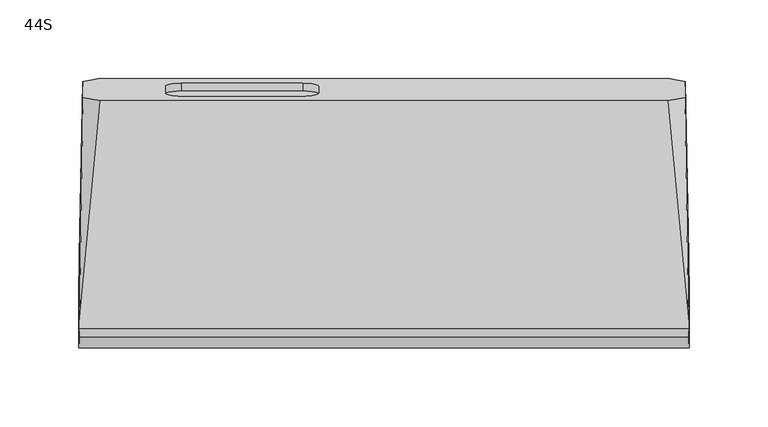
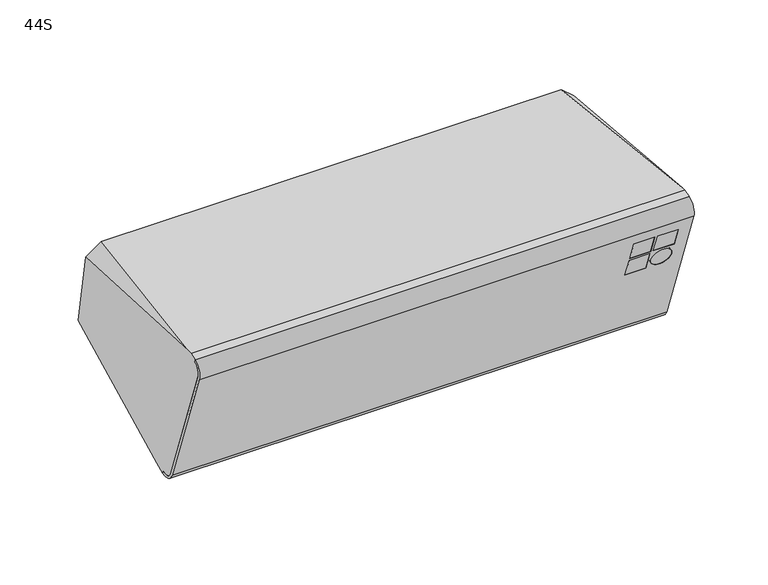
"""IFC4 building model written with IfcOpenShell, lengths in millimetres: proxy geometry, d&b xS-Series 44S Point Source : 44S."""

import ifcopenshell
import ifcopenshell.guid

model = None  # the IFC model being written
_history = None  # IfcOwnerHistory: only IFC2X3 demands one
_inside = {}  # id of a spatial element -> (the spatial element, [elements in it])
_under = {}  # id of a project, library or spatial element -> (it, [spatial elements below it])
_declared = {}  # id of a project -> (the project, [libraries it declares])
_typed = {}  # id of a type object -> (the type object, [elements of that type])
_made_of = {}  # id of a material, layer set ... -> (it, [elements and type objects made of it])


def new_model(schema):
    """Start an empty IFC model of exactly this schema.

    Asked for "IFC4X3", IfcOpenShell would pick the latest addendum, in which some entities
    have other attributes; the version numbers below select the first issue.
    IFC2X3 requires an IfcOwnerHistory on every rooted entity: one is made here for all.
    """
    global model, _history
    if schema == "IFC4X3":
        model = ifcopenshell.file(schema_version=(4, 3, 0, 0))
    else:
        model = ifcopenshell.file(schema=schema)
    _inside.clear()
    _under.clear()
    _declared.clear()
    _typed.clear()
    _made_of.clear()
    _history = None
    if model.schema == "IFC2X3":
        org = make("IfcOrganization", Name="unknown")
        user = make(
            "IfcPersonAndOrganization",
            ThePerson=make("IfcPerson", FamilyName="unknown"),
            TheOrganization=org,
        )
        app = make(
            "IfcApplication",
            ApplicationDeveloper=org,
            Version="unknown",
            ApplicationFullName="unknown",
            ApplicationIdentifier="unknown",
        )
        _history = make(
            "IfcOwnerHistory",
            OwningUser=user,
            OwningApplication=app,
            ChangeAction="ADDED",
            CreationDate=0,
        )
    return model


def make(cls, **values):
    """One entity of the class cls with the attributes given. An attribute that is None is left unset."""
    return model.create_entity(
        cls, **{name: value for name, value in values.items() if value is not None}
    )


def rooted(cls, **values):
    """An entity with a GlobalId (a new one), such as an element, a storey or a relation."""
    return make(cls, GlobalId=ifcopenshell.guid.new(), OwnerHistory=_history, **values)


def si_unit(unit_type, name, prefix=None):
    """IfcSIUnit, for example si_unit("LENGTHUNIT", "METRE", prefix="MILLI")."""
    return make("IfcSIUnit", UnitType=unit_type, Prefix=prefix, Name=name)


def assignment(units):
    """IfcUnitAssignment: the units of a project."""
    return None if units is None else make("IfcUnitAssignment", Units=units)


def point(xyz):
    """IfcCartesianPoint."""
    return None if xyz is None else make("IfcCartesianPoint", Coordinates=xyz)


def direction(xyz):
    """IfcDirection."""
    return None if xyz is None else make("IfcDirection", DirectionRatios=xyz)


def frame(location, z_axis=None, x_axis=None):
    """IfcAxis2Placement3D, a coordinate frame: its origin and axes. An axis left out is left unset."""
    return make(
        "IfcAxis2Placement3D",
        Location=point(location),
        Axis=direction(z_axis),
        RefDirection=direction(x_axis),
    )


def frame_2d(location, x_axis=None):
    """IfcAxis2Placement2D, a coordinate frame in the plane: its origin and x axis."""
    return make(
        "IfcAxis2Placement2D", Location=point(location), RefDirection=direction(x_axis)
    )


def origin():
    """The frame at (0, 0, 0) with its axes left unset."""
    return frame((0.0, 0.0, 0.0))


def place(relative_to, where):
    """IfcLocalPlacement: puts the frame where relative to a parent placement (None: the world)."""
    return make(
        "IfcLocalPlacement", PlacementRelTo=relative_to, RelativePlacement=where
    )


def context(
    kind, dimensions, precision=None, world=None, true_north=None, identifier=None
):
    """IfcGeometricRepresentationContext, for example the 3D "Model" context."""
    return make(
        "IfcGeometricRepresentationContext",
        ContextIdentifier=identifier,
        ContextType=kind,
        CoordinateSpaceDimension=dimensions,
        Precision=precision,
        WorldCoordinateSystem=world,
        TrueNorth=true_north,
    )


def project(units=None, contexts=None):
    """IfcProject with its units and contexts."""
    return rooted(
        "IfcProject",
        Name="project",
        RepresentationContexts=contexts,
        UnitsInContext=assignment(units),
    )


def spatial(cls, under=None, at=None, **own):
    """A site, building, storey or space (cls), placed at a placement, below another one or the project."""
    s = rooted(cls, ObjectPlacement=at, **own)
    if under is not None:
        _under.setdefault(under.id(), (under, []))[1].append(s)
    return s


def polyline(points):
    """IfcPolyline through the points."""
    return make("IfcPolyline", Points=[point(p) for p in points])


def circle_curve(where, radius):
    """IfcCircle in the frame where."""
    return make("IfcCircle", Position=where, Radius=radius)


def ellipse_curve(where, semi_axis1, semi_axis2):
    """IfcEllipse in the frame where."""
    return make(
        "IfcEllipse", Position=where, SemiAxis1=semi_axis1, SemiAxis2=semi_axis2
    )


def trimmed(basis, trim1, trim2, sense, master):
    """IfcTrimmedCurve: the piece of a basis curve between two trims."""
    return make(
        "IfcTrimmedCurve",
        BasisCurve=basis,
        Trim1=trim1,
        Trim2=trim2,
        SenseAgreement=sense,
        MasterRepresentation=master,
    )


def segment(curve, same_sense, transition):
    """IfcCompositeCurveSegment."""
    return make(
        "IfcCompositeCurveSegment",
        Transition=transition,
        SameSense=same_sense,
        ParentCurve=curve,
    )


def composite_curve(segments, self_intersect=None):
    """IfcCompositeCurve: segments joined end to end."""
    return make("IfcCompositeCurve", Segments=segments, SelfIntersect=self_intersect)


def outline(outer, holes=None, kind="AREA"):
    """IfcArbitraryClosedProfileDef: a profile drawn as a closed curve; with holes, ...WithVoids."""
    if holes is None:
        return make("IfcArbitraryClosedProfileDef", ProfileType=kind, OuterCurve=outer)
    return make(
        "IfcArbitraryProfileDefWithVoids",
        ProfileType=kind,
        OuterCurve=outer,
        InnerCurves=holes,
    )


def extrude(swept, where, along, depth):
    """IfcExtrudedAreaSolid: the profile swept, set in the frame where, extruded along a direction by depth."""
    return make(
        "IfcExtrudedAreaSolid",
        SweptArea=swept,
        Position=where,
        ExtrudedDirection=direction(along),
        Depth=depth,
    )


def shape(context_of_items, identifier, shape_type, items):
    """IfcShapeRepresentation: the items that make up one representation, for example the "Body"."""
    return make(
        "IfcShapeRepresentation",
        ContextOfItems=context_of_items,
        RepresentationIdentifier=identifier,
        RepresentationType=shape_type,
        Items=items,
    )


def source(mapping_origin, context_of_items, identifier, shape_type, items):
    """IfcRepresentationMap: a shape defined once, which mapped items show again and again."""
    return make(
        "IfcRepresentationMap",
        MappingOrigin=mapping_origin,
        MappedRepresentation=shape(context_of_items, identifier, shape_type, items),
    )


def transform(
    local_origin,
    x_axis=None,
    y_axis=None,
    z_axis=None,
    scale=None,
    scale2=None,
    scale3=None,
    uniform=True,
):
    """IfcCartesianTransformationOperator3D, or its non-uniform kind. x_axis, y_axis, z_axis: its Axis1, 2, 3."""
    if uniform:
        return make(
            "IfcCartesianTransformationOperator3D",
            Axis1=direction(x_axis),
            Axis2=direction(y_axis),
            LocalOrigin=point(local_origin),
            Scale=scale,
            Axis3=direction(z_axis),
        )
    return make(
        "IfcCartesianTransformationOperator3DnonUniform",
        Axis1=direction(x_axis),
        Axis2=direction(y_axis),
        LocalOrigin=point(local_origin),
        Scale=scale,
        Axis3=direction(z_axis),
        Scale2=scale2,
        Scale3=scale3,
    )


def mapped(mapping_source, mapping_target):
    """IfcMappedItem: shows the shape of a source again, moved by a transform."""
    return make(
        "IfcMappedItem", MappingSource=mapping_source, MappingTarget=mapping_target
    )


def made_of(thing, what):
    """Note that an element or type object is made of a material, layer set ...; save() writes the relation."""
    if what is not None:
        _made_of.setdefault(what.id(), (what, []))[1].append(thing)
    return thing


def element(
    cls,
    number,
    at=None,
    inside=None,
    cuts=None,
    type_object=None,
    material=None,
    context=None,
    identifier="Body",
    shape_type=None,
    held_by="IfcProductDefinitionShape",
    body=None,
    shapes=None,
    **own,
):
    """One element of the class cls, such as IfcWall. Its Tag is "e" and its number.

    at: its placement. inside: the storey or other place that contains it. cuts: it is an
    opening in that element (IfcRelVoidsElement). A single representation is given by context,
    identifier, shape_type and body (its items); several are given by shapes. held_by: the class
    of the entity that holds the representations. save() writes the other relations.
    """
    e = rooted(cls, Tag="e%d" % number, ObjectPlacement=at, **own)
    if body is not None:
        shapes = [shape(context, identifier, shape_type, body)]
    if shapes is not None:
        e.Representation = make(held_by, Representations=shapes)
    if inside is not None:
        _inside.setdefault(inside.id(), (inside, []))[1].append(e)
    if cuts is not None:
        rooted(
            "IfcRelVoidsElement", RelatingBuildingElement=cuts, RelatedOpeningElement=e
        )
    if type_object is not None:
        _typed.setdefault(type_object.id(), (type_object, []))[1].append(e)
    return made_of(e, material)


def aggregate(whole, parts):
    """IfcRelAggregates: a whole, such as a stair, and the parts it consists of."""
    return rooted("IfcRelAggregates", RelatingObject=whole, RelatedObjects=parts)


def save(model, path):
    """Write the relations noted so far, then the file.

    IfcRelAggregates (storeys below a building ...), IfcRelContainedInSpatialStructure (elements
    in a storey), IfcRelDefinesByType, IfcRelAssociatesMaterial and IfcRelDeclares: one each for
    every whole, place, type object, material and project.
    """
    for whole, parts in _under.values():
        aggregate(whole, parts)
    for where, things in _inside.values():
        rooted(
            "IfcRelContainedInSpatialStructure",
            RelatedElements=things,
            RelatingStructure=where,
        )
    for kind, things in _typed.values():
        rooted("IfcRelDefinesByType", RelatedObjects=things, RelatingType=kind)
    for what, things in _made_of.values():
        rooted("IfcRelAssociatesMaterial", RelatedObjects=things, RelatingMaterial=what)
    for by, libraries in _declared.values():
        rooted("IfcRelDeclares", RelatingContext=by, RelatedDefinitions=libraries)
    model.write(path)


def plane_surface(at):
    """IfcPlane: the flat surface through the origin of the frame at, square to its z axis."""
    return make("IfcPlane", Position=at)


def cylinder_surface(at, radius):
    """IfcCylindricalSurface: all points at the distance radius from the z axis of the frame at."""
    return make("IfcCylindricalSurface", Position=at, Radius=radius)


def revolved_surface(curve, axis_point, axis_direction):
    """IfcSurfaceOfRevolution: the curve turned about the line through axis_point along axis_direction."""
    return make(
        "IfcSurfaceOfRevolution",
        SweptCurve=make("IfcArbitraryOpenProfileDef", ProfileType="CURVE", Curve=curve),
        AxisPosition=make("IfcAxis1Placement", Location=point(axis_point), Axis=direction(axis_direction)),
    )


def advanced_brep(points, edges, surfaces, faces):
    """IfcAdvancedBrep: a solid bounded by faces that lie on surfaces and meet in shared edges.

    An edge is (start, end): straight between two places in points (the first is 0);
    or (start, end, curve); or (start, end, curve, False) where it runs against its curve.
    A face is (place in surfaces, loops), or (place, loops, False) where it looks against
    its surface's normal. A loop lists edges by number (the first is 1), with a minus sign
    where the edge is run from its end to its start. The first loop is the outer one.
    """
    corners = [point(p) for p in points]
    vertices = [make("IfcVertexPoint", VertexGeometry=c) for c in corners]
    made = []
    for start, end, *more in edges:
        made.append(
            make(
                "IfcEdgeCurve",
                EdgeStart=vertices[start],
                EdgeEnd=vertices[end],
                EdgeGeometry=more[0] if more else make("IfcPolyline", Points=[corners[start], corners[end]]),
                SameSense=more[1] if len(more) > 1 else True,
            )
        )
    hull = []
    for where, loops, *sense in faces:
        bounds = []
        for j, loop in enumerate(loops):
            ring = [make("IfcOrientedEdge", EdgeElement=made[abs(k) - 1], Orientation=k > 0) for k in loop]
            bounds.append(
                make(
                    "IfcFaceOuterBound" if j == 0 else "IfcFaceBound",
                    Bound=make("IfcEdgeLoop", EdgeList=ring),
                    Orientation=True,
                )
            )
        hull.append(make("IfcAdvancedFace", Bounds=bounds, FaceSurface=surfaces[where], SameSense=sense[0] if sense else True))
    return make("IfcAdvancedBrep", Outer=make("IfcClosedShell", CfsFaces=hull))


def proxy_44s_8543937a(model_context):
    return source(origin(), model_context, "Body", "SolidModel", [
        advanced_brep(
        [(-193.4294708, -87.9735419, 25.4458491), (-193.4294708, -51.0085421, -76.1146532), (-193.2924342, -40.7995779, -80.8751713), (-193.2924342, -40.1304238, -82.7136572), (-193.4644806, -52.9475514, -76.7369324), (-193.4644806, -89.8857269, 24.7498706), (-193.2918337, -83.8881405, 37.6117362), (-193.2918337, -83.1921621, 35.6995512), (193.4294708, -51.0085421, -76.1146532), (193.4294708, -87.9735419, 25.4458491), (193.2918337, -83.1921621, 35.6995512), (193.2918337, -83.8881405, 37.6117362), (193.4644806, -89.8857269, 24.7498706), (193.4644806, -52.9475514, -76.7369324), (193.2924342, -40.1304238, -82.7136572), (193.2924342, -40.7995779, -80.8751713), (164.7978139, -78.1689644, -1.4920061), (148.4644806, -78.1689644, -1.4920061), (148.4644806, -72.5826354, -16.8403189), (164.7978139, -72.5826354, -16.8403189), (164.7978139, -84.5533404, 16.0489229), (148.4644806, -84.5533404, 16.0489229), (148.4644806, -78.9670114, 0.7006101), (164.7978139, -78.9670114, 0.7006101), (183.4644806, -84.5533404, 16.0489229), (167.1311473, -84.5533404, 16.0489229), (167.1311473, -78.9670114, 0.7006101), (183.4644806, -78.9670114, 0.7006101), (167.1311473, -75.3757999, -9.1661625), (183.4644806, -75.3757999, -9.1661625), (148.4644806, -80.0811495, -2.1879845), (164.7978139, -80.0811495, -2.1879845), (164.7978139, -74.4948205, -17.5362973), (148.4644806, -74.4948205, -17.5362973), (148.4644806, -86.4655255, 15.3529444), (164.7978139, -86.4655255, 15.3529444), (164.7978139, -80.8791965, 0.0046316), (148.4644806, -80.8791965, 0.0046316), (167.1311473, -86.4655255, 15.3529444), (183.4644806, -86.4655255, 15.3529444), (183.4644806, -80.8791965, 0.0046316), (167.1311473, -80.8791965, 0.0046316), (183.4644806, -77.287985, -9.8621409), (167.1311473, -77.287985, -9.8621409)],
        [
            (0, 1),
            (1, 2, ellipse_curve(frame((-193.2924342, -43.5238009, -73.3904302), z_axis=(0.999852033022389, -0.016164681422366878, -0.005883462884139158), x_axis=(0.017202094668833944, 0.9395535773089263, 0.3419695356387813)), 7.9662739, 7.9650952)),
            (2, 3),
            (3, 4, ellipse_curve(frame((-193.2924342, -43.5506252, -73.316731), z_axis=(-0.999852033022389, 0.016164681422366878, 0.005883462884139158), x_axis=(-0.017202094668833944, -0.9395535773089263, -0.3419695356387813)), 10.0014799, 10.0)),
            (4, 5),
            (5, 6, ellipse_curve(frame((-193.2918337, -80.4560009, 28.1820102), z_axis=(-0.999852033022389, 0.016164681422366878, 0.005883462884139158), x_axis=(-0.017202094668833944, -0.9395535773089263, -0.3419695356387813)), 10.0363899, 10.0349048)),
            (6, 7),
            (7, 0, ellipse_curve(frame((-193.2918337, -80.4560009, 28.1820102), z_axis=(0.999852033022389, -0.016164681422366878, -0.005883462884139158), x_axis=(0.017202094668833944, 0.9395535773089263, 0.3419695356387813)), 8.0011839, 8.0)),
            (8, 9),
            (9, 10, ellipse_curve(frame((193.2918337, -80.4560009, 28.1820102), z_axis=(-0.9998520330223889, -0.016164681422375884, -0.005883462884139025), x_axis=(0.017202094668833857, -0.9395535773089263, -0.3419695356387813)), 8.0011839, 8.0)),
            (10, 11),
            (11, 12, ellipse_curve(frame((193.2918337, -80.4560009, 28.1820102), z_axis=(0.9998520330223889, 0.016164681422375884, 0.005883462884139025), x_axis=(-0.017202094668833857, 0.9395535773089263, 0.3419695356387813)), 10.0363899, 10.0349048)),
            (12, 13),
            (13, 14, ellipse_curve(frame((193.2924342, -43.5506252, -73.316731), z_axis=(0.9998520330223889, 0.016164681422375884, 0.005883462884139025), x_axis=(-0.017202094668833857, 0.9395535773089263, 0.3419695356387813)), 10.0014799, 10.0)),
            (14, 15),
            (15, 8, ellipse_curve(frame((193.2924342, -43.5238009, -73.3904302), z_axis=(-0.9998520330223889, -0.016164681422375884, -0.005883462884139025), x_axis=(0.017202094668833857, -0.9395535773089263, -0.3419695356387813)), 7.9662739, 7.9650952)),
            (0, 9),
            (8, 1),
            (16, 17),
            (17, 18),
            (18, 19),
            (19, 16),
            (20, 21),
            (21, 22),
            (22, 23),
            (23, 20),
            (24, 25),
            (25, 26),
            (26, 27),
            (27, 24),
            (28, 29, circle_curve(frame((175.2978139, -75.3757999, -9.1661625), z_axis=(0.0, -0.9396926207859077, -0.3420201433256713), x_axis=(-1.0, 0.0, 0.0)), 8.1666667)),
            (29, 28, circle_curve(frame((175.2978139, -75.3757999, -9.1661625), z_axis=(0.0, -0.9396926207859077, -0.3420201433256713), x_axis=(-1.0, 0.0, 0.0)), 8.1666667)),
            (15, 2),
            (14, 3),
            (13, 4),
            (12, 5),
            (30, 31),
            (31, 32),
            (32, 33),
            (33, 30),
            (34, 35),
            (35, 36),
            (36, 37),
            (37, 34),
            (38, 39),
            (39, 40),
            (40, 41),
            (41, 38),
            (42, 43, circle_curve(frame((175.2978139, -77.287985, -9.8621409), z_axis=(0.0, 0.9396926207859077, 0.3420201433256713), x_axis=(-1.0, 0.0, 0.0)), 8.1666667)),
            (43, 42, circle_curve(frame((175.2978139, -77.287985, -9.8621409), z_axis=(0.0, 0.9396926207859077, 0.3420201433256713), x_axis=(-1.0, 0.0, 0.0)), 8.1666667)),
            (11, 6),
            (10, 7),
            (16, 31),
            (30, 17),
            (19, 32),
            (18, 33),
            (20, 35),
            (34, 21),
            (23, 36),
            (22, 37),
            (24, 39),
            (38, 25),
            (27, 40),
            (26, 41),
            (28, 43),
            (42, 29),
        ],
        [
            plane_surface(frame((-193.8309972, -125.6372625, 60.6895534), z_axis=(-0.999852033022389, 0.016164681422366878, 0.005883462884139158), x_axis=(0.0, 0.3420201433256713, -0.9396926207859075))),
            plane_surface(frame((190.7119283, 44.7217815, 122.6951745), z_axis=(0.9998520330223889, 0.016164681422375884, 0.005883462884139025), x_axis=(0.0, 0.3420201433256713, -0.9396926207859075))),
            plane_surface(frame((-202.5, -87.9735419, 25.4458491), z_axis=(0.0, 0.9396926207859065, 0.34202014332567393), x_axis=(1.0, 0.0, 0.0))),
            revolved_surface(polyline([(193.4294708, -46.24802390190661, -65.90568901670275), (-193.4294708, -46.24802390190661, -65.90568901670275)]), (202.5, -43.5238009, -73.3904302), (1.0, 0.0, 0.0)),
            plane_surface(frame((-202.5, -40.7995779, -80.8751713), z_axis=(0.0, 0.9396926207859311, 0.34202014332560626), x_axis=(1.0, 0.0, 0.0))),
            cylinder_surface(frame((202.5, -43.5506252, -73.316731), z_axis=(-1.0, 0.0, 0.0), x_axis=(0.0, -0.34202014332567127, 0.9396926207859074)), 10.0),
            plane_surface(frame((-202.5, -52.9475514, -76.7369324), z_axis=(0.0, -0.9396926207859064, -0.3420201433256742), x_axis=(1.0, 0.0, 0.0))),
            cylinder_surface(frame((202.5, -80.4560009, 28.1820102), z_axis=(-1.0, 0.0, 0.0), x_axis=(0.0, -0.34202014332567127, 0.9396926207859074)), 10.0349048),
            plane_surface(frame((-202.5, -83.8881405, 37.6117362), z_axis=(0.0, 0.9396926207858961, 0.3420201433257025), x_axis=(1.0, 0.0, 0.0))),
            revolved_surface(polyline([(193.42947082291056, -83.19216204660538, 35.69955116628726), (-193.42947082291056, -83.19216204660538, 35.69955116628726)]), (202.5, -80.4560009, 28.1820102), (1.0, 0.0, 0.0)),
            plane_surface(frame((164.7978139, -80.0811495, -2.1879845), z_axis=(0.0, 0.3420201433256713, -0.9396926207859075), x_axis=(0.0, 0.9396926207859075, 0.3420201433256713))),
            plane_surface(frame((164.7978139, -74.4948205, -17.5362973), z_axis=(-1.0000000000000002, 0.0, 0.0), x_axis=(0.0, 0.9396926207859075, 0.3420201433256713))),
            plane_surface(frame((148.4644806, -74.4948205, -17.5362973), z_axis=(0.0, -0.3420201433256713, 0.9396926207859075), x_axis=(0.0, 0.9396926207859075, 0.3420201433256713))),
            plane_surface(frame((148.4644806, -80.0811495, -2.1879845), z_axis=(1.0000000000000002, 0.0, 0.0), x_axis=(0.0, 0.9396926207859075, 0.3420201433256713))),
            plane_surface(frame((164.7978139, -86.4655255, 15.3529444), z_axis=(0.0, 0.3420201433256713, -0.9396926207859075), x_axis=(0.0, 0.9396926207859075, 0.3420201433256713))),
            plane_surface(frame((164.7978139, -80.8791965, 0.0046316), z_axis=(-1.0000000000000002, 0.0, 0.0), x_axis=(0.0, 0.9396926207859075, 0.3420201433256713))),
            plane_surface(frame((148.4644806, -80.8791965, 0.0046316), z_axis=(0.0, -0.3420201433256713, 0.9396926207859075), x_axis=(0.0, 0.9396926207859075, 0.3420201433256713))),
            plane_surface(frame((148.4644806, -86.4655255, 15.3529444), z_axis=(1.0000000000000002, 0.0, 0.0), x_axis=(0.0, 0.9396926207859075, 0.3420201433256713))),
            plane_surface(frame((183.4644806, -86.4655255, 15.3529444), z_axis=(0.0, 0.3420201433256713, -0.9396926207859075), x_axis=(0.0, 0.9396926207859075, 0.3420201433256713))),
            plane_surface(frame((183.4644806, -80.8791965, 0.0046316), z_axis=(-1.0000000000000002, 0.0, 0.0), x_axis=(0.0, 0.9396926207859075, 0.3420201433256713))),
            plane_surface(frame((167.1311473, -80.8791965, 0.0046316), z_axis=(0.0, -0.3420201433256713, 0.9396926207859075), x_axis=(0.0, 0.9396926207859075, 0.3420201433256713))),
            plane_surface(frame((167.1311473, -86.4655255, 15.3529444), z_axis=(1.0000000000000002, 0.0, 0.0), x_axis=(0.0, 0.9396926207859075, 0.3420201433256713))),
            revolved_surface(polyline([(167.1311472, -77.28798498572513, -9.862140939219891), (167.1311472, -75.37579990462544, -9.166162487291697)]), (175.2978139, -20.6693511, 10.7453565), (0.0, -0.9396926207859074, -0.34202014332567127)),
        ],
        [
            (0, [[1, 2, 3, 4, 5, 6, 7, 8]]),
            (1, [[9, 10, 11, 12, 13, 14, 15, 16]]),
            (2, [[17, -9, 18, -1], [19, 20, 21, 22], [23, 24, 25, 26], [27, 28, 29, 30], [31, 32]]),
            (3, [[-18, -16, 33, -2]]),
            (4, [[-33, -15, 34, -3]]),
            (5, [[-34, -14, 35, -4]]),
            (6, [[-35, -13, 36, -5], [37, 38, 39, 40], [41, 42, 43, 44], [45, 46, 47, 48], [49, 50]]),
            (7, [[-36, -12, 51, -6]]),
            (8, [[-51, -11, 52, -7]]),
            (9, [[-17, -8, -52, -10]]),
            (10, [[53, -37, 54, -19]]),
            (11, [[-53, -22, 55, -38]]),
            (12, [[-55, -21, 56, -39]]),
            (13, [[-56, -20, -54, -40]]),
            (14, [[57, -41, 58, -23]]),
            (15, [[-57, -26, 59, -42]]),
            (16, [[-59, -25, 60, -43]]),
            (17, [[-60, -24, -58, -44]]),
            (18, [[61, -45, 62, -27]]),
            (19, [[-61, -30, 63, -46]]),
            (20, [[-63, -29, 64, -47]]),
            (21, [[-64, -28, -62, -48]]),
            (22, [[65, -49, 66, -31]]),
            (22, [[-65, -32, -66, -50]]),
        ],
    ),
        extrude(outline(polyline([(0.0, -16.3333333), (0.0, 0.0), (5.0, 0.0), (5.0, -16.3333333), (0.0, -16.3333333)])), frame((148.4644806, -74.4948205, -17.5362973), z_axis=(0.0, -0.3420201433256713, 0.9396926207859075), x_axis=(0.0, 0.9396926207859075, 0.3420201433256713)), (0.0, 0.0, 1.0), 16.3333333),
        extrude(outline(polyline([(0.0, -16.3333333), (0.0, 0.0), (5.0, 0.0), (5.0, -16.3333333), (0.0, -16.3333333)])), frame((148.4644806, -80.8791965, 0.0046316), z_axis=(0.0, -0.3420201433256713, 0.9396926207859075), x_axis=(0.0, 0.9396926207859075, 0.3420201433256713)), (0.0, 0.0, 1.0), 16.3333333),
        extrude(outline(polyline([(0.0, -16.3333333), (0.0, 0.0), (5.0, 0.0), (5.0, -16.3333333), (0.0, -16.3333333)])), frame((167.1311473, -80.8791965, 0.0046316), z_axis=(0.0, -0.3420201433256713, 0.9396926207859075), x_axis=(0.0, 0.9396926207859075, 0.3420201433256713)), (0.0, 0.0, 1.0), 16.3333333),
        extrude(outline(composite_curve([segment(trimmed(circle_curve(frame_2d((-17.5, -26.8333333)), 8.1666667), [point((-17.5, -35.0))], [point((-17.5, -18.6666667))], False, "CARTESIAN"), True, "CONTINUOUS"), segment(trimmed(circle_curve(frame_2d((-17.5, -26.8333333)), 8.1666667), [point((-17.5, -18.6666667))], [point((-17.5, -35.0))], False, "CARTESIAN"), True, "CONTINUOUS")], self_intersect=False)), frame((148.4644806, -71.3026325, -26.3067618), z_axis=(0.0, 0.9396926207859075, 0.3420201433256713), x_axis=(0.0, 0.3420201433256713, -0.9396926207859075)), (0.0, 0.0, 1.0), 5.0),
        advanced_brep(
        [(-193.2924342, -40.1304238, -82.7136572), (-193.2924342, -40.7995779, -80.8751713), (-193.4294708, -51.0085421, -76.1146532), (-193.4294708, -87.9735419, 25.4458491), (-193.2918337, -83.1921621, 35.6995512), (-193.2918337, -83.8762023, 37.5789364), (-193.1898069, -78.3036462, 39.607181), (-193.132384, -74.7519113, 39.6074739), (-190.8800877, 68.2424569, 29.4951651), (-191.0574064, 78.5489013, -28.955586), (-193.132384, -31.3887128, -79.5319346), (193.2924342, -40.7995779, -80.8751713), (193.2924342, -40.1304238, -82.7136572), (193.132384, -31.3887128, -79.5319346), (191.0574064, 78.5489013, -28.955586), (190.8800877, 68.2424569, 29.4951651), (193.132384, -74.7519113, 39.6074739), (193.1898069, -78.3036462, 39.607181), (193.2918337, -83.8762023, 37.5789364), (193.2918337, -83.1921621, 35.6995512), (193.4294708, -87.9735419, 25.4458491), (193.4294708, -51.0085421, -76.1146532), (-181.3061997, 80.2990071, -38.880929), (181.3061997, 80.2990071, -38.880929), (179.9289467, 66.4573306, 39.6191191), (-179.9289467, 66.4573306, 39.6191191), (-138.5, 71.1207426, 13.1715959), (-138.5, 75.6355952, -12.4334057), (-128.5, 77.372077, -22.2814833), (-51.5, 77.372077, -22.2814833), (-41.5, 75.6355952, -12.4334057), (-41.5, 71.1207426, 13.1715959), (-51.5, 69.3842608, 23.0196734), (-128.5, 69.3842608, 23.0196734), (-138.5, 66.1967038, 12.303355), (-128.5, 64.460222, 22.1514325), (-51.5, 64.460222, 22.1514325), (-41.5, 66.1967038, 12.303355), (-41.5, 70.7115564, -13.3016466), (-51.5, 72.4480382, -23.1497241), (-128.5, 72.4480382, -23.1497241), (-138.5, 70.7115564, -13.3016466)],
        [
            (0, 1),
            (1, 2, ellipse_curve(frame((-193.2924342, -43.5238009, -73.3904302), z_axis=(-0.999852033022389, 0.016164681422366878, 0.005883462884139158), x_axis=(-0.017202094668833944, -0.9395535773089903, -0.34196953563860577)), 7.9662739, 7.9650952)),
            (2, 3),
            (3, 4, ellipse_curve(frame((-193.2918337, -80.4560009, 28.1820102), z_axis=(-0.999852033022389, 0.016164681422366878, 0.005883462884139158), x_axis=(-0.017202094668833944, -0.9395535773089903, -0.34196953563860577)), 8.0011839, 8.0)),
            (4, 5),
            (5, 6),
            (6, 7),
            (7, 8),
            (8, 9),
            (9, 10),
            (10, 0),
            (11, 12),
            (12, 13),
            (13, 14),
            (14, 15),
            (15, 16),
            (16, 17),
            (17, 18),
            (18, 19),
            (19, 20, ellipse_curve(frame((193.2918337, -80.4560009, 28.1820102), z_axis=(0.9998520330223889, 0.016164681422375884, 0.005883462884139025), x_axis=(-0.017202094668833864, 0.9395535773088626, 0.34196953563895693)), 8.0011839, 8.0)),
            (20, 21),
            (21, 11, ellipse_curve(frame((193.2924342, -43.5238009, -73.3904302), z_axis=(0.9998520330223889, 0.016164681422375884, 0.005883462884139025), x_axis=(-0.017202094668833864, 0.9395535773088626, 0.34196953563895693)), 7.9662739, 7.9650952)),
            (0, 12),
            (11, 1),
            (21, 2),
            (20, 3),
            (19, 4),
            (18, 5),
            (17, 6),
            (10, 22),
            (22, 23),
            (23, 13),
            (16, 24),
            (24, 25),
            (25, 7),
            (9, 22),
            (23, 14),
            (15, 24),
            (25, 8),
            (26, 27),
            (27, 28, circle_curve(frame((-128.5, 75.6355952, -12.4334057), z_axis=(0.0, -0.9848077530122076, -0.1736481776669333), x_axis=(0.0, -0.1736481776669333, 0.9848077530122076)), 10.0)),
            (28, 29),
            (29, 30, circle_curve(frame((-51.5, 75.6355952, -12.4334057), z_axis=(0.0, -0.9848077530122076, -0.1736481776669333), x_axis=(0.0, -0.1736481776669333, 0.9848077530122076)), 10.0)),
            (30, 31),
            (31, 32, circle_curve(frame((-51.5, 71.1207426, 13.1715959), z_axis=(0.0, -0.9848077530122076, -0.1736481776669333), x_axis=(0.0, -0.1736481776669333, 0.9848077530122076)), 10.0)),
            (32, 33),
            (33, 26, circle_curve(frame((-128.5, 71.1207426, 13.1715959), z_axis=(0.0, -0.9848077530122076, -0.1736481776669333), x_axis=(0.0, -0.1736481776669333, 0.9848077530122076)), 10.0)),
            (34, 35, circle_curve(frame((-128.5, 66.1967038, 12.303355), z_axis=(0.0, 0.9848077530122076, 0.1736481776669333), x_axis=(0.0, -0.1736481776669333, 0.9848077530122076)), 10.0)),
            (35, 36),
            (36, 37, circle_curve(frame((-51.5, 66.1967038, 12.303355), z_axis=(0.0, 0.9848077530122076, 0.1736481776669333), x_axis=(0.0, -0.1736481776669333, 0.9848077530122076)), 10.0)),
            (37, 38),
            (38, 39, circle_curve(frame((-51.5, 70.7115564, -13.3016466), z_axis=(0.0, 0.9848077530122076, 0.1736481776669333), x_axis=(0.0, -0.1736481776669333, 0.9848077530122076)), 10.0)),
            (39, 40),
            (40, 41, circle_curve(frame((-128.5, 70.7115564, -13.3016466), z_axis=(0.0, 0.9848077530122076, 0.1736481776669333), x_axis=(0.0, -0.1736481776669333, 0.9848077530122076)), 10.0)),
            (41, 34),
            (41, 27),
            (26, 34),
            (40, 28),
            (39, 29),
            (38, 30),
            (37, 31),
            (36, 32),
            (35, 33),
        ],
        [
            plane_surface(frame((-193.8309972, -125.6372625, 60.6895534), z_axis=(-0.999852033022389, 0.016164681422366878, 0.005883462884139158), x_axis=(0.0, 0.3420201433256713, -0.9396926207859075))),
            plane_surface(frame((190.7119283, 44.7217815, 122.6951745), z_axis=(0.9998520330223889, 0.016164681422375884, 0.005883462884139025), x_axis=(0.0, 0.3420201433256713, -0.9396926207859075))),
            plane_surface(frame((-207.1452552, -40.1304238, -82.7136572), z_axis=(0.0, -0.9396926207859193, -0.3420201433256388), x_axis=(1.0, 0.0, 0.0))),
            cylinder_surface(frame((207.1452552, -43.5238009, -73.3904302), z_axis=(-1.0, 0.0, 0.0), x_axis=(0.0, 0.34202014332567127, -0.9396926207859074)), 7.9650952),
            plane_surface(frame((-207.1452552, -51.0085421, -76.1146532), z_axis=(0.0, -0.9396926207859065, -0.34202014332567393), x_axis=(1.0, 0.0, 0.0))),
            cylinder_surface(frame((207.1452552, -80.4560009, 28.1820102), z_axis=(-1.0, 0.0, 0.0), x_axis=(0.0, 0.34202014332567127, -0.9396926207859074)), 8.0),
            plane_surface(frame((-207.1452552, -83.1921621, 35.6995512), z_axis=(0.0, -0.9396926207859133, -0.34202014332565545), x_axis=(1.0, 0.0, 0.0))),
            plane_surface(frame((-207.1452552, -83.8762023, 37.5789364), z_axis=(0.0, -0.3420201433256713, 0.9396926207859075), x_axis=(1.0, 0.0, 0.0))),
            plane_surface(frame((-207.1452552, -34.5250679, -80.6734745), z_axis=(0.0, 0.3420201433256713, -0.9396926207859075), x_axis=(1.0, 0.0, 0.0))),
            plane_surface(frame((0.0, 66.4573306, 39.6191191), z_axis=(0.0, -8.246800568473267e-05, 0.9999999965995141), x_axis=(-1.0, 0.0, 0.0))),
            plane_surface(frame((-186.6967137, 90.9912157, -27.7871762), z_axis=(-0.7053631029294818, 0.3071997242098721, -0.6388201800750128), x_axis=(0.7071067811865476, 0.24184476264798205, -0.6644630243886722))),
            plane_surface(frame((186.6967137, 90.9912157, -27.7871762), z_axis=(0.7053631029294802, 0.30719972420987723, -0.6388201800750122), x_axis=(0.7071067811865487, -0.2418447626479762, 0.6644630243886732))),
            plane_surface(frame((186.6967137, 68.7720433, 33.2594985), z_axis=(0.6719558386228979, 0.0627687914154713, 0.7379264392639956), x_axis=(-0.7071067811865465, -0.24184476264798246, 0.6644630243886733))),
            plane_surface(frame((-186.6967137, 68.7720433, 33.2594985), z_axis=(-0.6719558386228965, 0.0627687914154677, 0.7379264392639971), x_axis=(-0.7071067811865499, 0.24184476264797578, -0.6644630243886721))),
            plane_surface(frame((-250.0, 83.3421534, -56.1394693), z_axis=(0.0, 0.9848077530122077, 0.1736481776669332), x_axis=(1.0, 0.0, 0.0))),
            plane_surface(frame((-138.5, 75.3749683, -39.7491699), z_axis=(0.0, 0.9848077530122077, 0.17364817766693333), x_axis=(0.0, 0.17364817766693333, -0.9848077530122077))),
            plane_surface(frame((-138.5, 66.1967038, 12.303355), z_axis=(1.0000000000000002, 0.0, 0.0), x_axis=(0.0, 0.9848077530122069, 0.17364817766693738))),
            revolved_surface(polyline([(-128.5, 68.97507462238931, -3.453569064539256), (-128.5, 73.899113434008, -2.585328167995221)]), (-128.5, 75.6355952, -12.4334057), (0.0, -0.9848077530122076, -0.1736481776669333)),
            plane_surface(frame((-128.5, 72.4480382, -23.1497241), z_axis=(0.0, -0.17364817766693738, 0.9848077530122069), x_axis=(0.0, 0.9848077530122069, 0.17364817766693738))),
            revolved_surface(polyline([(-51.5, 68.97507462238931, -3.453569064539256), (-51.5, 73.899113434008, -2.585328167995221)]), (-51.5, 75.6355952, -12.4334057), (0.0, -0.9848077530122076, -0.1736481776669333)),
            plane_surface(frame((-41.5, 70.7115564, -13.3016466), z_axis=(-1.0000000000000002, 0.0, 0.0), x_axis=(0.0, 0.9848077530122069, 0.17364817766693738))),
            revolved_surface(polyline([(-51.5, 64.46022199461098, 22.151432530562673), (-51.5, 69.38426082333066, 23.019673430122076)]), (-51.5, 71.1207426, 13.1715959), (0.0, -0.9848077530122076, -0.1736481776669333)),
            plane_surface(frame((-51.5, 64.460222, 22.1514325), z_axis=(0.0, 0.17364817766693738, -0.9848077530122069), x_axis=(0.0, 0.9848077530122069, 0.17364817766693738))),
            revolved_surface(polyline([(-128.5, 64.46022199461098, 22.151432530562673), (-128.5, 69.38426082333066, 23.019673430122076)]), (-128.5, 71.1207426, 13.1715959), (0.0, -0.9848077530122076, -0.1736481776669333)),
        ],
        [
            (0, [[1, 2, 3, 4, 5, 6, 7, 8, 9, 10, 11]]),
            (1, [[12, 13, 14, 15, 16, 17, 18, 19, 20, 21, 22]]),
            (2, [[23, -12, 24, -1]]),
            (3, [[-24, -22, 25, -2]]),
            (4, [[-25, -21, 26, -3]]),
            (5, [[-26, -20, 27, -4]]),
            (6, [[-27, -19, 28, -5]]),
            (7, [[-28, -18, 29, -6]]),
            (8, [[-23, -11, 30, 31, 32, -13]]),
            (9, [[-29, -17, 33, 34, 35, -7]]),
            (10, [[-30, -10, 36]]),
            (11, [[-32, 37, -14]]),
            (12, [[-33, -16, 38]]),
            (13, [[-35, 39, -8]]),
            (14, [[-31, -36, -9, -39, -34, -38, -15, -37], [40, 41, 42, 43, 44, 45, 46, 47]]),
            (15, [[48, 49, 50, 51, 52, 53, 54, 55]]),
            (16, [[-55, 56, -40, 57]]),
            (17, [[-54, 58, -41, -56]]),
            (18, [[-53, 59, -42, -58]]),
            (19, [[-52, 60, -43, -59]]),
            (20, [[-51, 61, -44, -60]]),
            (21, [[-50, 62, -45, -61]]),
            (22, [[-49, 63, -46, -62]]),
            (23, [[-48, -57, -47, -63]]),
        ],
    ),
    ])


if __name__ == "__main__":
    model = new_model("IFC4")
    model_context = context("Model", 3, world=origin())
    ifc_project = project(units=[si_unit("LENGTHUNIT", "METRE", prefix="MILLI")], contexts=[model_context])
    site = spatial("IfcSite", under=ifc_project)
    building = spatial("IfcBuilding", under=site)
    placement = place(None, origin())
    proxy_44s_shape = proxy_44s_8543937a(model_context)
    element("IfcBuildingElementProxy", 1, Name="d&b xS-Series 44S Point Source : 44S", ObjectType="d&b xS-Series 44S Point Source : 44S", at=placement, inside=building, context=model_context, shape_type="MappedRepresentation", body=[
        mapped(proxy_44s_shape, transform((0.0, 0.0, 0.0), x_axis=(1.0, 0.0, 0.0), y_axis=(0.0, 1.0, 0.0), z_axis=(0.0, 0.0, 1.0))),
    ])
    save(model, "model.ifc")
